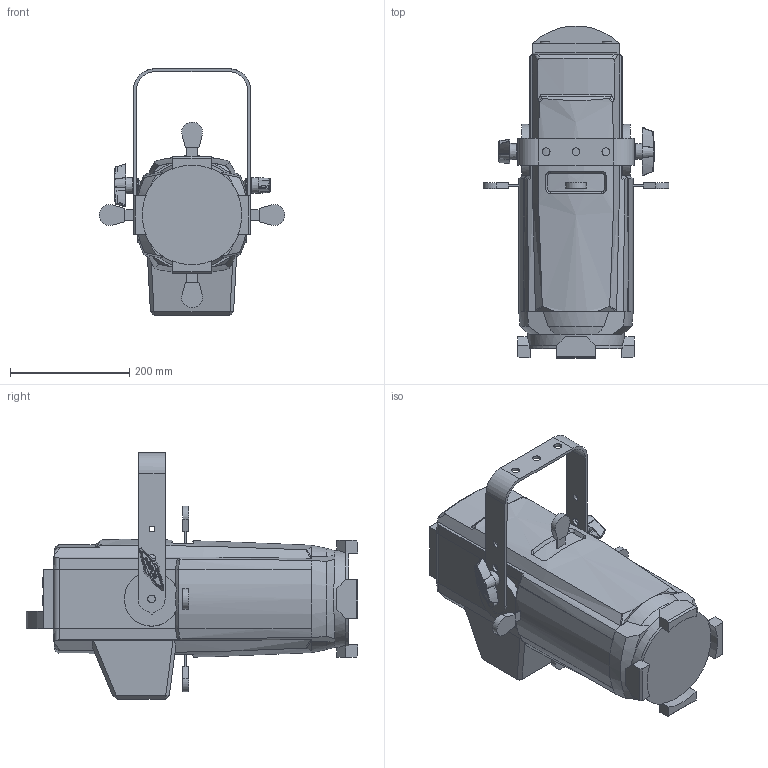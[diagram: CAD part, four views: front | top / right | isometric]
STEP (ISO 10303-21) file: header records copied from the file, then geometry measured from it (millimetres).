
FILE_DESCRIPTION(/* description */ ('Unknown'),/* implementation_level */ '2;1');
FILE_NAME(/* name */ '3D_Robin T10',/* time_stamp */ '2025-11-03T11:56:32+01:00',/* author */ ('Unknown'),/* organization */ ('Unknown'),/* preprocessor_version */ 'ST-DEVELOPER v20',/* originating_system */ 'Solid Edge',/* authorisation */ 'Unknown');
FILE_SCHEMA (('AUTOMOTIVE_DESIGN {1 0 10303 214 3 1 1}'));
Length unit declared in the file: millimetre
Products named in the file (11): 3D_Robin T10.par; 3D_Robin T10_GDTF; 99019457 Sestava z嫛鮀u T10; 11040287 Z嫛鮀 T10; 19020426 ROBE matice M8; 18540014 Matice M8; 19020128-00 ROBE šroub M8 - køídlo; 18050018 Podložka 8 black; 17031496 Tøecí podložka; 11018055 Podložka závìsu; 18010218 Šroub M8X20 s ètyøhranem
Assembly tree (16 placements, depth 4):
  3D_Robin T10.par
    3D_Robin T10_GDTF
    99019457 Sestava z嫛鮀u T10
      11040287 Z嫛鮀 T10
      19020426 ROBE matice M8  x2
        18540014 Matice M8
        19020128-00 ROBE šroub M8 - køídlo
      18050018 Podložka 8 black  x2
      17031496 Tøecí podložka  x2
      11018055 Podložka závìsu  x2
      18010218 Šroub M8X20 s ètyøhranem  x2
Bounding box: 311.29 x 556.21 x 413.18 mm (x, y, z)
Volume: 16264587.6 mm3; surface area: 565248.3 mm2
Topology: 16 solids, 16 shells, 1126 faces, 2737 edges, 1683 vertices
Faces by surface type: bspline 419, plane 349, cylinder 122, cone 104, sphere 80, torus 52
Full cylindrical faces by diameter (mm): 3.6 x2, 4.5 x2, 8 x6, 8.4 x2, 12.9 x4, 13 x7, 16 x6, 24 x2, 43 x2
Entity records: 26895 total; most frequent: CARTESIAN_POINT 12360, ORIENTED_EDGE 3292, DIRECTION 2344, EDGE_CURVE 1646, VERTEX_POINT 1052, AXIS2_PLACEMENT_3D 916, EDGE_LOOP 808, FACE_BOUND 808
